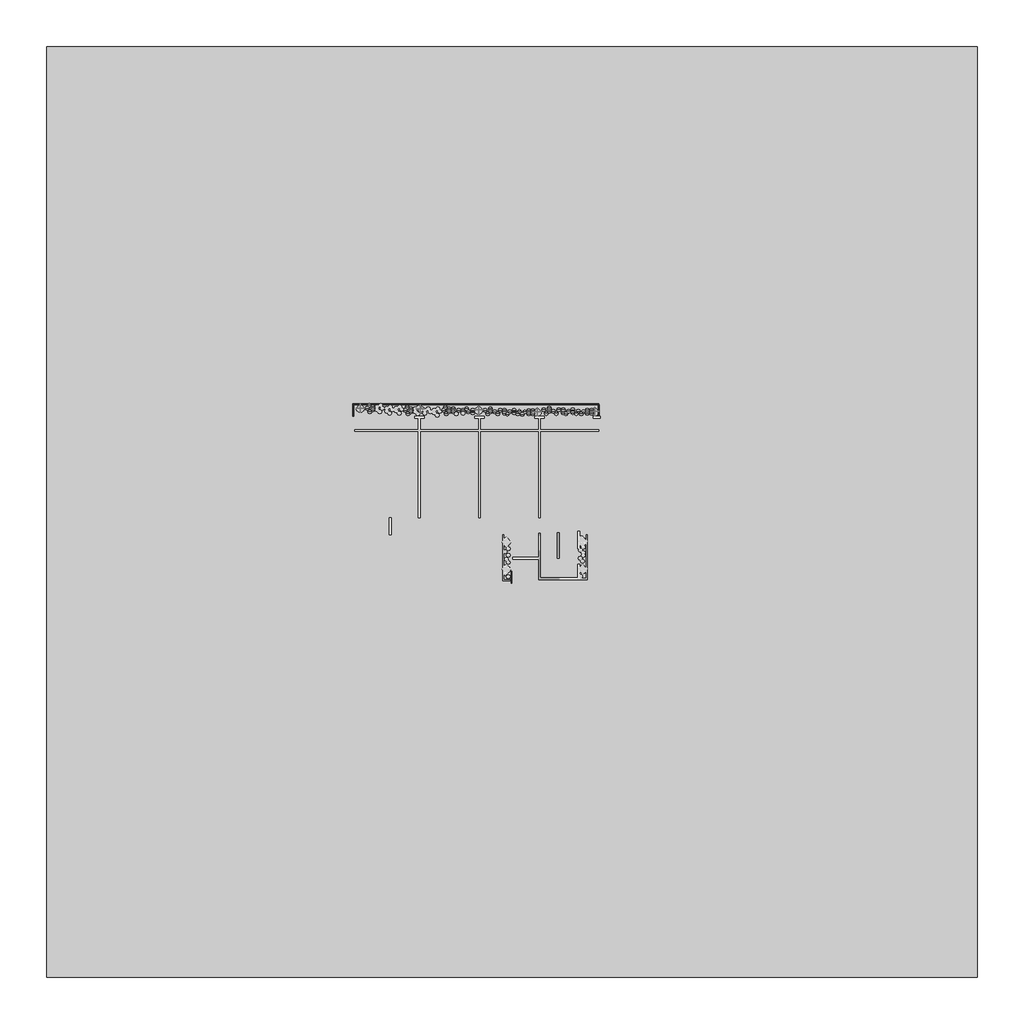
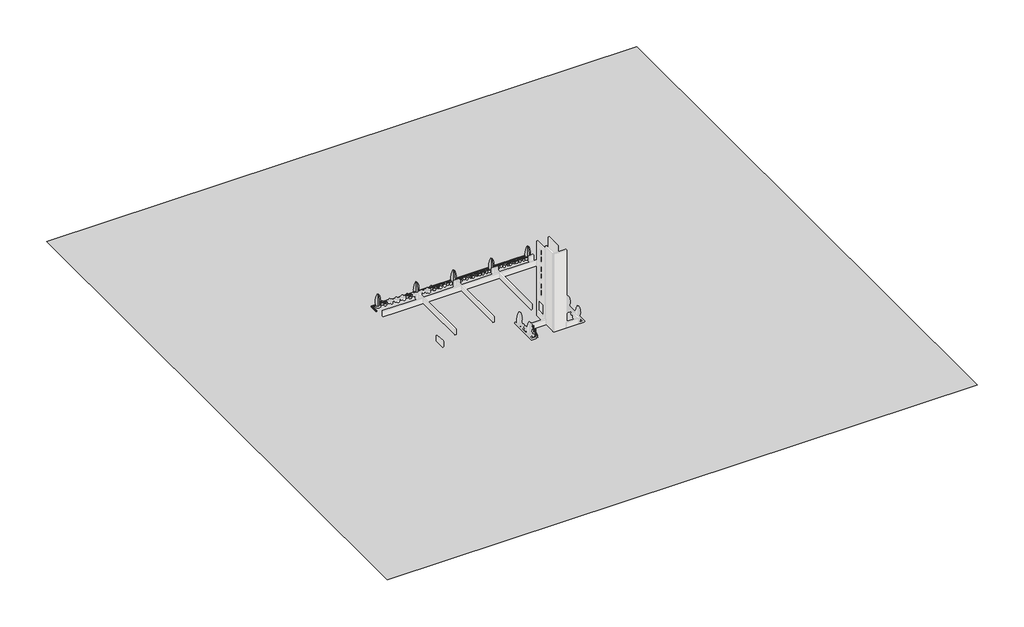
# One storey, part 2 of 2: 77 geographic elements, 70 proxies.
"""IFC4 building model written with IfcOpenShell, lengths in millimetres."""

from ifc_helpers import new_model, si_unit, origin, place, context, project, spatial, triangles, transform, mapped, element, save
from components import generic_models_b06dacd5, generic_models_38c1e6e6, generic_models_6d567278, generic_models_fe5f96ef, generic_models_e88440d3, geographic_element_770d22dd, geographic_element_d8609427

model = new_model("IFC4")

# Units and contexts
model_context = context("Model", 3, world=origin())
ifc_project = project(units=[si_unit("LENGTHUNIT", "METRE", prefix="MILLI")], contexts=[model_context])

# Site, building, storey
site = spatial("IfcSite", under=ifc_project)
building = spatial("IfcBuilding", under=site)
storey = spatial("IfcBuildingStorey", under=building, Name="設計GL", Elevation=0.0)

# Proxies
placement = place(None, origin())
element("IfcBuildingElementProxy", 1, Name="Building Element Proxy", at=placement, inside=storey, context=model_context, shape_type="Tessellation", body=[
    triangles([(-43599.9991699, 49999.9992188, 0.0), (56399.9992676, 49999.9992188, 0.0), (56399.9992676, -49999.9992188, 0.0), (-43599.9991699, -49999.9992188, 0.0)], [[1, 4, 2], [3, 2, 4]], closed=False),
])
generic_models_shape = generic_models_b06dacd5(model_context)
element("IfcBuildingElementProxy", 2, Name="玄関手摺子3 : 玄関手摺子", ObjectType="玄関手摺子3 : 玄関手摺子", at=placement, inside=storey, context=model_context, shape_type="MappedRepresentation", body=[
    mapped(generic_models_shape, transform((854.8405988, 1187.4496274, 0.0), x_axis=(1.0, 0.0, 0.0), y_axis=(0.0, 1.0, 0.0), z_axis=(0.0, 0.0, 1.0))),
])
generic_models_2_shape = generic_models_38c1e6e6(model_context)
element("IfcBuildingElementProxy", 3, Name="玄関手摺子5 : 玄関手摺子", ObjectType="玄関手摺子5 : 玄関手摺子", at=placement, inside=storey, context=model_context, shape_type="MappedRepresentation", body=[
    mapped(generic_models_2_shape, transform((854.8405988, 1687.4496274, 0.0), x_axis=(1.0, 0.0, 0.0), y_axis=(0.0, 1.0, 0.0), z_axis=(0.0, 0.0, 1.0))),
])
generic_models_3_shape = generic_models_6d567278(model_context)
element("IfcBuildingElementProxy", 4, Name="玄関手摺1 : 玄関手摺", ObjectType="玄関手摺1 : 玄関手摺", at=placement, inside=storey, context=model_context, shape_type="MappedRepresentation", body=[
    mapped(generic_models_3_shape, transform((17290.0, 0.0, 730.0), x_axis=(1.0, 0.0, 0.0), y_axis=(0.0, 1.0, 0.0), z_axis=(0.0, 0.0, 1.0))),
])
element("IfcBuildingElementProxy", 5, Name="玄関手摺2 : 玄関手摺", ObjectType="玄関手摺2 : 玄関手摺", at=placement, inside=storey, context=model_context, shape_type="MappedRepresentation", body=[
    mapped(generic_models_3_shape, transform((17290.0, 0.0, 410.0), x_axis=(1.0, 0.0, 0.0), y_axis=(0.0, 1.0, 0.0), z_axis=(0.0, 0.0, 1.0))),
])
generic_models_4_shape = generic_models_fe5f96ef(model_context)
element("IfcBuildingElementProxy", 6, Name="サツキ1 : サツキ", ObjectType="サツキ1 : サツキ", at=placement, inside=storey, context=model_context, shape_type="MappedRepresentation", body=[
    mapped(generic_models_4_shape, transform((47822.0281243, 4670.5037571, 0.0), x_axis=(1.0, 0.0, 0.0), y_axis=(0.0, 1.0, 0.0), z_axis=(0.0, 0.0, 1.0))),
])
element("IfcBuildingElementProxy", 7, Name="サツキ2 : サツキ", ObjectType="サツキ2 : サツキ", at=placement, inside=storey, context=model_context, shape_type="MappedRepresentation", body=[
    mapped(generic_models_4_shape, transform((47822.0281243, 4370.5037571, 0.0), x_axis=(1.0, 0.0, 0.0), y_axis=(0.0, 1.0, 0.0), z_axis=(0.0, 0.0, 1.0))),
])
element("IfcBuildingElementProxy", 8, Name="サツキ3 : サツキ", ObjectType="サツキ3 : サツキ", at=placement, inside=storey, context=model_context, shape_type="MappedRepresentation", body=[
    mapped(generic_models_4_shape, transform((47517.7640556, 4126.2396884, 0.0), x_axis=(1.0, 0.0, 0.0), y_axis=(0.0, 1.0, 0.0), z_axis=(0.0, 0.0, 1.0))),
])
element("IfcBuildingElementProxy", 9, Name="サツキ4 : サツキ", ObjectType="サツキ4 : サツキ", at=placement, inside=storey, context=model_context, shape_type="MappedRepresentation", body=[
    mapped(generic_models_4_shape, transform((47242.4726285, 4525.7951842, 0.0), x_axis=(1.0, 0.0, 0.0), y_axis=(0.0, 1.0, 0.0), z_axis=(0.0, 0.0, 1.0))),
])
element("IfcBuildingElementProxy", 10, Name="サツキ5 : サツキ", ObjectType="サツキ5 : サツキ", at=placement, inside=storey, context=model_context, shape_type="MappedRepresentation", body=[
    mapped(generic_models_4_shape, transform((47442.4726285, 4825.7951842, 0.0), x_axis=(1.0, 0.0, 0.0), y_axis=(0.0, 1.0, 0.0), z_axis=(0.0, 0.0, 1.0))),
])
element("IfcBuildingElementProxy", 11, Name="サツキ21 : サツキ", ObjectType="サツキ21 : サツキ", at=placement, inside=storey, context=model_context, shape_type="MappedRepresentation", body=[
    mapped(generic_models_4_shape, transform((51916.4092168, 4455.9263365, 0.0), x_axis=(1.0, 0.0, 0.0), y_axis=(0.0, 1.0, 0.0), z_axis=(0.0, 0.0, 1.0))),
])
element("IfcBuildingElementProxy", 12, Name="サツキ22 : サツキ", ObjectType="サツキ22 : サツキ", at=placement, inside=storey, context=model_context, shape_type="MappedRepresentation", body=[
    mapped(generic_models_4_shape, transform((51916.4092168, 4155.9263365, 0.0), x_axis=(1.0, 0.0, 0.0), y_axis=(0.0, 1.0, 0.0), z_axis=(0.0, 0.0, 1.0))),
])
element("IfcBuildingElementProxy", 13, Name="サツキ23 : サツキ", ObjectType="サツキ23 : サツキ", at=placement, inside=storey, context=model_context, shape_type="MappedRepresentation", body=[
    mapped(generic_models_4_shape, transform((51612.1451481, 3911.6622678, 0.0), x_axis=(1.0, 0.0, 0.0), y_axis=(0.0, 1.0, 0.0), z_axis=(0.0, 0.0, 1.0))),
])
element("IfcBuildingElementProxy", 14, Name="サツキ24 : サツキ", ObjectType="サツキ24 : サツキ", at=placement, inside=storey, context=model_context, shape_type="MappedRepresentation", body=[
    mapped(generic_models_4_shape, transform((51336.853721, 4311.2177636, 0.0), x_axis=(1.0, 0.0, 0.0), y_axis=(0.0, 1.0, 0.0), z_axis=(0.0, 0.0, 1.0))),
])
element("IfcBuildingElementProxy", 15, Name="サツキ25 : サツキ", ObjectType="サツキ25 : サツキ", at=placement, inside=storey, context=model_context, shape_type="MappedRepresentation", body=[
    mapped(generic_models_4_shape, transform((51536.853721, 4611.2177636, 0.0), x_axis=(1.0, 0.0, 0.0), y_axis=(0.0, 1.0, 0.0), z_axis=(0.0, 0.0, 1.0))),
])
element("IfcBuildingElementProxy", 16, Name="サツキ41 : サツキ", ObjectType="サツキ41 : サツキ", at=placement, inside=storey, context=model_context, shape_type="MappedRepresentation", body=[
    mapped(generic_models_4_shape, transform((56016.4092168, 4455.9263365, 0.0), x_axis=(1.0, 0.0, 0.0), y_axis=(0.0, 1.0, 0.0), z_axis=(0.0, 0.0, 1.0))),
])
element("IfcBuildingElementProxy", 17, Name="サツキ42 : サツキ", ObjectType="サツキ42 : サツキ", at=placement, inside=storey, context=model_context, shape_type="MappedRepresentation", body=[
    mapped(generic_models_4_shape, transform((56016.4092168, 4155.9263365, 0.0), x_axis=(1.0, 0.0, 0.0), y_axis=(0.0, 1.0, 0.0), z_axis=(0.0, 0.0, 1.0))),
])
element("IfcBuildingElementProxy", 18, Name="サツキ43 : サツキ", ObjectType="サツキ43 : サツキ", at=placement, inside=storey, context=model_context, shape_type="MappedRepresentation", body=[
    mapped(generic_models_4_shape, transform((55712.1451481, 3911.6622678, 0.0), x_axis=(1.0, 0.0, 0.0), y_axis=(0.0, 1.0, 0.0), z_axis=(0.0, 0.0, 1.0))),
])
element("IfcBuildingElementProxy", 19, Name="サツキ44 : サツキ", ObjectType="サツキ44 : サツキ", at=placement, inside=storey, context=model_context, shape_type="MappedRepresentation", body=[
    mapped(generic_models_4_shape, transform((55436.853721, 4311.2177636, 0.0), x_axis=(1.0, 0.0, 0.0), y_axis=(0.0, 1.0, 0.0), z_axis=(0.0, 0.0, 1.0))),
])
element("IfcBuildingElementProxy", 20, Name="サツキ45 : サツキ", ObjectType="サツキ45 : サツキ", at=placement, inside=storey, context=model_context, shape_type="MappedRepresentation", body=[
    mapped(generic_models_4_shape, transform((55636.853721, 4611.2177636, 0.0), x_axis=(1.0, 0.0, 0.0), y_axis=(0.0, 1.0, 0.0), z_axis=(0.0, 0.0, 1.0))),
])
generic_models_5_shape = generic_models_e88440d3(model_context)
element("IfcBuildingElementProxy", 21, Name="サツキ46 : サツキ", ObjectType="サツキ46 : サツキ", at=placement, inside=storey, context=model_context, shape_type="MappedRepresentation", body=[
    mapped(generic_models_5_shape, transform((-39627.6470318, 4455.9263365, 0.0), x_axis=(1.0, 0.0, 0.0), y_axis=(0.0, 1.0, 0.0), z_axis=(0.0, 0.0, 1.0))),
])
element("IfcBuildingElementProxy", 22, Name="サツキ47 : サツキ", ObjectType="サツキ47 : サツキ", at=placement, inside=storey, context=model_context, shape_type="MappedRepresentation", body=[
    mapped(generic_models_5_shape, transform((-39627.6470318, 4155.9263365, 0.0), x_axis=(1.0, 0.0, 0.0), y_axis=(0.0, 1.0, 0.0), z_axis=(0.0, 0.0, 1.0))),
])
element("IfcBuildingElementProxy", 23, Name="サツキ49 : サツキ", ObjectType="サツキ49 : サツキ", at=placement, inside=storey, context=model_context, shape_type="MappedRepresentation", body=[
    mapped(generic_models_5_shape, transform((-39048.091536, 4311.2177636, 0.0), x_axis=(1.0, 0.0, 0.0), y_axis=(0.0, 1.0, 0.0), z_axis=(0.0, 0.0, 1.0))),
])
element("IfcBuildingElementProxy", 24, Name="サツキ51 : サツキ", ObjectType="サツキ51 : サツキ", at=placement, inside=storey, context=model_context, shape_type="MappedRepresentation", body=[
    mapped(generic_models_5_shape, transform((-38583.1272642, 4296.0481083, 0.0), x_axis=(1.0, 0.0, 0.0), y_axis=(0.0, 1.0, 0.0), z_axis=(0.0, 0.0, 1.0))),
])
element("IfcBuildingElementProxy", 25, Name="サツキ54 : サツキ", ObjectType="サツキ54 : サツキ", at=placement, inside=storey, context=model_context, shape_type="MappedRepresentation", body=[
    mapped(generic_models_5_shape, transform((-38003.5717685, 4151.3395354, 0.0), x_axis=(1.0, 0.0, 0.0), y_axis=(0.0, 1.0, 0.0), z_axis=(0.0, 0.0, 1.0))),
])
element("IfcBuildingElementProxy", 26, Name="サツキ55 : サツキ", ObjectType="サツキ55 : サツキ", at=placement, inside=storey, context=model_context, shape_type="MappedRepresentation", body=[
    mapped(generic_models_5_shape, transform((-38203.5717685, 4451.3395354, 0.0), x_axis=(1.0, 0.0, 0.0), y_axis=(0.0, 1.0, 0.0), z_axis=(0.0, 0.0, 1.0))),
])
element("IfcBuildingElementProxy", 27, Name="サツキ56 : サツキ", ObjectType="サツキ56 : サツキ", at=placement, inside=storey, context=model_context, shape_type="MappedRepresentation", body=[
    mapped(generic_models_5_shape, transform((-37555.2810618, 4314.9666505, 0.0), x_axis=(1.0, 0.0, 0.0), y_axis=(0.0, 1.0, 0.0), z_axis=(0.0, 0.0, 1.0))),
])
element("IfcBuildingElementProxy", 28, Name="サツキ57 : サツキ", ObjectType="サツキ57 : サツキ", at=placement, inside=storey, context=model_context, shape_type="MappedRepresentation", body=[
    mapped(generic_models_5_shape, transform((-37555.2810618, 4014.9666505, 0.0), x_axis=(1.0, 0.0, 0.0), y_axis=(0.0, 1.0, 0.0), z_axis=(0.0, 0.0, 1.0))),
])
element("IfcBuildingElementProxy", 29, Name="サツキ61 : サツキ", ObjectType="サツキ61 : サツキ", at=placement, inside=storey, context=model_context, shape_type="MappedRepresentation", body=[
    mapped(generic_models_4_shape, transform((60472.0281243, 4455.9263365, 0.0), x_axis=(1.0, 0.0, 0.0), y_axis=(0.0, 1.0, 0.0), z_axis=(0.0, 0.0, 1.0))),
])
element("IfcBuildingElementProxy", 30, Name="サツキ62 : サツキ", ObjectType="サツキ62 : サツキ", at=placement, inside=storey, context=model_context, shape_type="MappedRepresentation", body=[
    mapped(generic_models_4_shape, transform((60472.0281243, 4155.9263365, 0.0), x_axis=(1.0, 0.0, 0.0), y_axis=(0.0, 1.0, 0.0), z_axis=(0.0, 0.0, 1.0))),
])
element("IfcBuildingElementProxy", 31, Name="サツキ63 : サツキ", ObjectType="サツキ63 : サツキ", at=placement, inside=storey, context=model_context, shape_type="MappedRepresentation", body=[
    mapped(generic_models_4_shape, transform((60167.7640556, 3911.6622678, 0.0), x_axis=(1.0, 0.0, 0.0), y_axis=(0.0, 1.0, 0.0), z_axis=(0.0, 0.0, 1.0))),
])
element("IfcBuildingElementProxy", 32, Name="サツキ64 : サツキ", ObjectType="サツキ64 : サツキ", at=placement, inside=storey, context=model_context, shape_type="MappedRepresentation", body=[
    mapped(generic_models_4_shape, transform((59892.4726285, 4311.2177636, 0.0), x_axis=(1.0, 0.0, 0.0), y_axis=(0.0, 1.0, 0.0), z_axis=(0.0, 0.0, 1.0))),
])
element("IfcBuildingElementProxy", 33, Name="サツキ67 : サツキ", ObjectType="サツキ67 : サツキ", at=placement, inside=storey, context=model_context, shape_type="MappedRepresentation", body=[
    mapped(generic_models_5_shape, transform((-35172.0281243, 4155.9263365, 0.0), x_axis=(1.0, 0.0, 0.0), y_axis=(0.0, 1.0, 0.0), z_axis=(0.0, 0.0, 1.0))),
])
element("IfcBuildingElementProxy", 34, Name="サツキ68 : サツキ", ObjectType="サツキ68 : サツキ", at=placement, inside=storey, context=model_context, shape_type="MappedRepresentation", body=[
    mapped(generic_models_5_shape, transform((-34867.7640556, 3911.6622678, 0.0), x_axis=(1.0, 0.0, 0.0), y_axis=(0.0, 1.0, 0.0), z_axis=(0.0, 0.0, 1.0))),
])
element("IfcBuildingElementProxy", 35, Name="サツキ69 : サツキ", ObjectType="サツキ69 : サツキ", at=placement, inside=storey, context=model_context, shape_type="MappedRepresentation", body=[
    mapped(generic_models_5_shape, transform((-34592.4726285, 4311.2177636, 0.0), x_axis=(1.0, 0.0, 0.0), y_axis=(0.0, 1.0, 0.0), z_axis=(0.0, 0.0, 1.0))),
])
element("IfcBuildingElementProxy", 36, Name="サツキ71 : サツキ", ObjectType="サツキ71 : サツキ", at=placement, inside=storey, context=model_context, shape_type="MappedRepresentation", body=[
    mapped(generic_models_5_shape, transform((-34127.5083567, 4296.0481083, 0.0), x_axis=(1.0, 0.0, 0.0), y_axis=(0.0, 1.0, 0.0), z_axis=(0.0, 0.0, 1.0))),
])
element("IfcBuildingElementProxy", 37, Name="サツキ72 : サツキ", ObjectType="サツキ72 : サツキ", at=placement, inside=storey, context=model_context, shape_type="MappedRepresentation", body=[
    mapped(generic_models_5_shape, transform((-34127.5083567, 3996.0481083, 0.0), x_axis=(1.0, 0.0, 0.0), y_axis=(0.0, 1.0, 0.0), z_axis=(0.0, 0.0, 1.0))),
])
element("IfcBuildingElementProxy", 38, Name="サツキ73 : サツキ", ObjectType="サツキ73 : サツキ", at=placement, inside=storey, context=model_context, shape_type="MappedRepresentation", body=[
    mapped(generic_models_5_shape, transform((-33823.244288, 3891.7840396, 0.0), x_axis=(1.0, 0.0, 0.0), y_axis=(0.0, 1.0, 0.0), z_axis=(0.0, 0.0, 1.0))),
])
element("IfcBuildingElementProxy", 39, Name="サツキ74 : サツキ", ObjectType="サツキ74 : サツキ", at=placement, inside=storey, context=model_context, shape_type="MappedRepresentation", body=[
    mapped(generic_models_5_shape, transform((-33547.9528609, 4151.3395354, 0.0), x_axis=(1.0, 0.0, 0.0), y_axis=(0.0, 1.0, 0.0), z_axis=(0.0, 0.0, 1.0))),
])
element("IfcBuildingElementProxy", 40, Name="サツキ76 : サツキ", ObjectType="サツキ76 : サツキ", at=placement, inside=storey, context=model_context, shape_type="MappedRepresentation", body=[
    mapped(generic_models_5_shape, transform((-33099.6621543, 4314.9666505, 0.0), x_axis=(1.0, 0.0, 0.0), y_axis=(0.0, 1.0, 0.0), z_axis=(0.0, 0.0, 1.0))),
])
element("IfcBuildingElementProxy", 41, Name="サツキ77 : サツキ", ObjectType="サツキ77 : サツキ", at=placement, inside=storey, context=model_context, shape_type="MappedRepresentation", body=[
    mapped(generic_models_5_shape, transform((-33099.6621543, 4014.9666505, 0.0), x_axis=(1.0, 0.0, 0.0), y_axis=(0.0, 1.0, 0.0), z_axis=(0.0, 0.0, 1.0))),
])
element("IfcBuildingElementProxy", 42, Name="サツキ79 : サツキ", ObjectType="サツキ79 : サツキ", at=placement, inside=storey, context=model_context, shape_type="MappedRepresentation", body=[
    mapped(generic_models_5_shape, transform((-32520.1066585, 4170.2580775, 0.0), x_axis=(1.0, 0.0, 0.0), y_axis=(0.0, 1.0, 0.0), z_axis=(0.0, 0.0, 1.0))),
])
element("IfcBuildingElementProxy", 43, Name="サツキ80 : サツキ", ObjectType="サツキ80 : サツキ", at=placement, inside=storey, context=model_context, shape_type="MappedRepresentation", body=[
    mapped(generic_models_5_shape, transform((-32720.1066585, 3910.2580775, 0.0), x_axis=(1.0, 0.0, 0.0), y_axis=(0.0, 1.0, 0.0), z_axis=(0.0, 0.0, 1.0))),
])
element("IfcBuildingElementProxy", 44, Name="サツキ81 : サツキ", ObjectType="サツキ81 : サツキ", at=placement, inside=storey, context=model_context, shape_type="MappedRepresentation", body=[
    mapped(generic_models_4_shape, transform((64566.4092168, 4241.3489159, 0.0), x_axis=(1.0, 0.0, 0.0), y_axis=(0.0, 1.0, 0.0), z_axis=(0.0, 0.0, 1.0))),
])
element("IfcBuildingElementProxy", 45, Name="サツキ82 : サツキ", ObjectType="サツキ82 : サツキ", at=placement, inside=storey, context=model_context, shape_type="MappedRepresentation", body=[
    mapped(generic_models_4_shape, transform((64566.4092168, 3941.3489159, 0.0), x_axis=(1.0, 0.0, 0.0), y_axis=(0.0, 1.0, 0.0), z_axis=(0.0, 0.0, 1.0))),
])
element("IfcBuildingElementProxy", 46, Name="サツキ84 : サツキ", ObjectType="サツキ84 : サツキ", at=placement, inside=storey, context=model_context, shape_type="MappedRepresentation", body=[
    mapped(generic_models_4_shape, transform((63906.853721, 3876.640343, 0.0), x_axis=(1.0, 0.0, 0.0), y_axis=(0.0, 1.0, 0.0), z_axis=(0.0, 0.0, 1.0))),
])
element("IfcBuildingElementProxy", 47, Name="サツキ85 : サツキ", ObjectType="サツキ85 : サツキ", at=placement, inside=storey, context=model_context, shape_type="MappedRepresentation", body=[
    mapped(generic_models_4_shape, transform((64166.853721, 4116.640343, 0.0), x_axis=(1.0, 0.0, 0.0), y_axis=(0.0, 1.0, 0.0), z_axis=(0.0, 0.0, 1.0))),
])
element("IfcBuildingElementProxy", 48, Name="サツキ86 : サツキ", ObjectType="サツキ86 : サツキ", at=placement, inside=storey, context=model_context, shape_type="MappedRepresentation", body=[
    mapped(generic_models_5_shape, transform((-31077.6470318, 4241.3489159, 0.0), x_axis=(1.0, 0.0, 0.0), y_axis=(0.0, 1.0, 0.0), z_axis=(0.0, 0.0, 1.0))),
])
element("IfcBuildingElementProxy", 49, Name="サツキ87 : サツキ", ObjectType="サツキ87 : サツキ", at=placement, inside=storey, context=model_context, shape_type="MappedRepresentation", body=[
    mapped(generic_models_5_shape, transform((-31077.6470318, 3941.3489159, 0.0), x_axis=(1.0, 0.0, 0.0), y_axis=(0.0, 1.0, 0.0), z_axis=(0.0, 0.0, 1.0))),
])
element("IfcBuildingElementProxy", 50, Name="サツキ33 : サツキ", ObjectType="サツキ33 : サツキ", at=placement, inside=storey, context=model_context, shape_type="MappedRepresentation", body=[
    mapped(generic_models_4_shape, transform((66772.0281243, 4495.9072352, 0.0), x_axis=(1.0, 0.0, 0.0), y_axis=(0.0, 1.0, 0.0), z_axis=(0.0, 0.0, 1.0))),
])
element("IfcBuildingElementProxy", 51, Name="サツキ103 : サツキ", ObjectType="サツキ103 : サツキ", at=placement, inside=storey, context=model_context, shape_type="MappedRepresentation", body=[
    mapped(generic_models_4_shape, transform((66772.0281243, 4195.9072352, 0.0), x_axis=(1.0, 0.0, 0.0), y_axis=(0.0, 1.0, 0.0), z_axis=(0.0, 0.0, 1.0))),
])
element("IfcBuildingElementProxy", 52, Name="サツキ104 : サツキ", ObjectType="サツキ104 : サツキ", at=placement, inside=storey, context=model_context, shape_type="MappedRepresentation", body=[
    mapped(generic_models_4_shape, transform((66467.7640556, 3951.6431665, 0.0), x_axis=(1.0, 0.0, 0.0), y_axis=(0.0, 1.0, 0.0), z_axis=(0.0, 0.0, 1.0))),
])
element("IfcBuildingElementProxy", 53, Name="サツキ105 : サツキ", ObjectType="サツキ105 : サツキ", at=placement, inside=storey, context=model_context, shape_type="MappedRepresentation", body=[
    mapped(generic_models_4_shape, transform((66192.4726285, 4351.1986623, 0.0), x_axis=(1.0, 0.0, 0.0), y_axis=(0.0, 1.0, 0.0), z_axis=(0.0, 0.0, 1.0))),
])
element("IfcBuildingElementProxy", 54, Name="サツキ106 : サツキ", ObjectType="サツキ106 : サツキ", at=placement, inside=storey, context=model_context, shape_type="MappedRepresentation", body=[
    mapped(generic_models_5_shape, transform((-28872.0281243, 4195.9072352, 0.0), x_axis=(1.0, 0.0, 0.0), y_axis=(0.0, 1.0, 0.0), z_axis=(0.0, 0.0, 1.0))),
])
element("IfcBuildingElementProxy", 55, Name="サツキ107 : サツキ", ObjectType="サツキ107 : サツキ", at=placement, inside=storey, context=model_context, shape_type="MappedRepresentation", body=[
    mapped(generic_models_5_shape, transform((-28567.7640556, 3951.6431665, 0.0), x_axis=(1.0, 0.0, 0.0), y_axis=(0.0, 1.0, 0.0), z_axis=(0.0, 0.0, 1.0))),
])
element("IfcBuildingElementProxy", 56, Name="サツキ108 : サツキ", ObjectType="サツキ108 : サツキ", at=placement, inside=storey, context=model_context, shape_type="MappedRepresentation", body=[
    mapped(generic_models_5_shape, transform((-28292.4726285, 4351.1986623, 0.0), x_axis=(1.0, 0.0, 0.0), y_axis=(0.0, 1.0, 0.0), z_axis=(0.0, 0.0, 1.0))),
])
element("IfcBuildingElementProxy", 57, Name="サツキ109 : サツキ", ObjectType="サツキ109 : サツキ", at=placement, inside=storey, context=model_context, shape_type="MappedRepresentation", body=[
    mapped(generic_models_5_shape, transform((-27827.5083567, 4336.029007, 0.0), x_axis=(1.0, 0.0, 0.0), y_axis=(0.0, 1.0, 0.0), z_axis=(0.0, 0.0, 1.0))),
])
element("IfcBuildingElementProxy", 58, Name="サツキ110 : サツキ", ObjectType="サツキ110 : サツキ", at=placement, inside=storey, context=model_context, shape_type="MappedRepresentation", body=[
    mapped(generic_models_5_shape, transform((-27827.5083567, 4036.029007, 0.0), x_axis=(1.0, 0.0, 0.0), y_axis=(0.0, 1.0, 0.0), z_axis=(0.0, 0.0, 1.0))),
])
element("IfcBuildingElementProxy", 59, Name="サツキ111 : サツキ", ObjectType="サツキ111 : サツキ", at=placement, inside=storey, context=model_context, shape_type="MappedRepresentation", body=[
    mapped(generic_models_5_shape, transform((-27523.244288, 3931.7649383, 0.0), x_axis=(1.0, 0.0, 0.0), y_axis=(0.0, 1.0, 0.0), z_axis=(0.0, 0.0, 1.0))),
])
element("IfcBuildingElementProxy", 60, Name="サツキ112 : サツキ", ObjectType="サツキ112 : サツキ", at=placement, inside=storey, context=model_context, shape_type="MappedRepresentation", body=[
    mapped(generic_models_5_shape, transform((-27247.9528609, 4191.3204341, 0.0), x_axis=(1.0, 0.0, 0.0), y_axis=(0.0, 1.0, 0.0), z_axis=(0.0, 0.0, 1.0))),
])
element("IfcBuildingElementProxy", 61, Name="サツキ113 : サツキ", ObjectType="サツキ113 : サツキ", at=placement, inside=storey, context=model_context, shape_type="MappedRepresentation", body=[
    mapped(generic_models_5_shape, transform((-26799.6621543, 4354.9475491, 0.0), x_axis=(1.0, 0.0, 0.0), y_axis=(0.0, 1.0, 0.0), z_axis=(0.0, 0.0, 1.0))),
])
element("IfcBuildingElementProxy", 62, Name="サツキ114 : サツキ", ObjectType="サツキ114 : サツキ", at=placement, inside=storey, context=model_context, shape_type="MappedRepresentation", body=[
    mapped(generic_models_5_shape, transform((-26799.6621543, 4054.9475491, 0.0), x_axis=(1.0, 0.0, 0.0), y_axis=(0.0, 1.0, 0.0), z_axis=(0.0, 0.0, 1.0))),
])
element("IfcBuildingElementProxy", 63, Name="サツキ115 : サツキ", ObjectType="サツキ115 : サツキ", at=placement, inside=storey, context=model_context, shape_type="MappedRepresentation", body=[
    mapped(generic_models_5_shape, transform((-26220.1066585, 4210.2389762, 0.0), x_axis=(1.0, 0.0, 0.0), y_axis=(0.0, 1.0, 0.0), z_axis=(0.0, 0.0, 1.0))),
])
element("IfcBuildingElementProxy", 64, Name="サツキ116 : サツキ", ObjectType="サツキ116 : サツキ", at=placement, inside=storey, context=model_context, shape_type="MappedRepresentation", body=[
    mapped(generic_models_5_shape, transform((-26420.1066585, 3950.2389762, 0.0), x_axis=(1.0, 0.0, 0.0), y_axis=(0.0, 1.0, 0.0), z_axis=(0.0, 0.0, 1.0))),
])
element("IfcBuildingElementProxy", 65, Name="サツキ117 : サツキ", ObjectType="サツキ117 : サツキ", at=placement, inside=storey, context=model_context, shape_type="MappedRepresentation", body=[
    mapped(generic_models_4_shape, transform((70866.4092168, 4281.3298146, 0.0), x_axis=(1.0, 0.0, 0.0), y_axis=(0.0, 1.0, 0.0), z_axis=(0.0, 0.0, 1.0))),
])
element("IfcBuildingElementProxy", 66, Name="サツキ118 : サツキ", ObjectType="サツキ118 : サツキ", at=placement, inside=storey, context=model_context, shape_type="MappedRepresentation", body=[
    mapped(generic_models_4_shape, transform((70866.4092168, 3981.3298146, 0.0), x_axis=(1.0, 0.0, 0.0), y_axis=(0.0, 1.0, 0.0), z_axis=(0.0, 0.0, 1.0))),
])
element("IfcBuildingElementProxy", 67, Name="サツキ119 : サツキ", ObjectType="サツキ119 : サツキ", at=placement, inside=storey, context=model_context, shape_type="MappedRepresentation", body=[
    mapped(generic_models_4_shape, transform((70206.853721, 3916.6212417, 0.0), x_axis=(1.0, 0.0, 0.0), y_axis=(0.0, 1.0, 0.0), z_axis=(0.0, 0.0, 1.0))),
])
element("IfcBuildingElementProxy", 68, Name="サツキ120 : サツキ", ObjectType="サツキ120 : サツキ", at=placement, inside=storey, context=model_context, shape_type="MappedRepresentation", body=[
    mapped(generic_models_4_shape, transform((70466.853721, 4156.6212417, 0.0), x_axis=(1.0, 0.0, 0.0), y_axis=(0.0, 1.0, 0.0), z_axis=(0.0, 0.0, 1.0))),
])
element("IfcBuildingElementProxy", 69, Name="サツキ121 : サツキ", ObjectType="サツキ121 : サツキ", at=placement, inside=storey, context=model_context, shape_type="MappedRepresentation", body=[
    mapped(generic_models_5_shape, transform((-24777.6470318, 4281.3298146, 0.0), x_axis=(1.0, 0.0, 0.0), y_axis=(0.0, 1.0, 0.0), z_axis=(0.0, 0.0, 1.0))),
])
element("IfcBuildingElementProxy", 70, Name="サツキ122 : サツキ", ObjectType="サツキ122 : サツキ", at=placement, inside=storey, context=model_context, shape_type="MappedRepresentation", body=[
    mapped(generic_models_5_shape, transform((-24777.6470318, 3981.3298146, 0.0), x_axis=(1.0, 0.0, 0.0), y_axis=(0.0, 1.0, 0.0), z_axis=(0.0, 0.0, 1.0))),
])

# Geographic elements
geographic_element_shape = geographic_element_770d22dd(model_context)
element("IfcGeographicElement", 71, ObjectType="木 - 針葉樹 : イブキ - 2.14 メートル", at=placement, inside=storey, context=model_context, shape_type="MappedRepresentation", body=[
    mapped(geographic_element_shape, transform((-9895.8160806, 11165.254513, 200.0), x_axis=(1.0, 0.0, 0.0), y_axis=(0.0, 1.0, 0.0), z_axis=(0.0, 0.0, 1.0))),
])
element("IfcGeographicElement", 72, ObjectType="木 - 針葉樹 : イブキ - 2.14 メートル", at=placement, inside=storey, context=model_context, shape_type="MappedRepresentation", body=[
    mapped(geographic_element_shape, transform((-3445.8160806, 11065.254513, 200.0), x_axis=(1.0, 0.0, 0.0), y_axis=(0.0, 1.0, 0.0), z_axis=(0.0, 0.0, 1.0))),
])
element("IfcGeographicElement", 73, ObjectType="木 - 針葉樹 : イブキ - 2.14 メートル", at=placement, inside=storey, context=model_context, shape_type="MappedRepresentation", body=[
    mapped(geographic_element_shape, transform((2804.1839194, 10965.254513, 200.0), x_axis=(1.0, 0.0, 0.0), y_axis=(0.0, 1.0, 0.0), z_axis=(0.0, 0.0, 1.0))),
])
element("IfcGeographicElement", 74, ObjectType="木 - 針葉樹 : イブキ - 2.14 メートル", at=placement, inside=storey, context=model_context, shape_type="MappedRepresentation", body=[
    mapped(geographic_element_shape, transform((9104.1839194, 10765.254513, 200.0), x_axis=(1.0, 0.0, 0.0), y_axis=(0.0, 1.0, 0.0), z_axis=(0.0, 0.0, 1.0))),
])
element("IfcGeographicElement", 75, ObjectType="木 - 針葉樹 : イブキ - 2.14 メートル", at=placement, inside=storey, context=model_context, shape_type="MappedRepresentation", body=[
    mapped(geographic_element_shape, transform((15284.1839194, 10805.2354117, 200.0), x_axis=(1.0, 0.0, 0.0), y_axis=(0.0, 1.0, 0.0), z_axis=(0.0, 0.0, 1.0))),
])
geographic_element_2_shape = geographic_element_d8609427(model_context)
element("IfcGeographicElement", 76, ObjectType="化粧ＣＢ5Ｌ : 化粧ＣＢ5Ｌ", at=placement, inside=storey, context=model_context, shape_type="MappedRepresentation", body=[
    mapped(geographic_element_2_shape, transform((-10695.6194095, 10309.9866207, 0.0), x_axis=(0.0, 1.0, 0.0), y_axis=(-1.0, 0.0, 0.0), z_axis=(0.0, 0.0, 1.0))),
])
element("IfcGeographicElement", 77, ObjectType="化粧ＣＢ5Ｌ : 化粧ＣＢ5Ｌ", at=placement, inside=storey, context=model_context, shape_type="MappedRepresentation", body=[
    mapped(geographic_element_2_shape, transform((-10695.6194095, 10709.9866207, 0.0), x_axis=(0.0, 1.0, 0.0), y_axis=(-1.0, 0.0, 0.0), z_axis=(0.0, 0.0, 1.0))),
])
element("IfcGeographicElement", 78, ObjectType="化粧ＣＢ5Ｌ : 化粧ＣＢ5Ｌ", at=placement, inside=storey, context=model_context, shape_type="MappedRepresentation", body=[
    mapped(geographic_element_2_shape, transform((-10695.6194095, 11109.9866207, 0.0), x_axis=(0.0, 1.0, 0.0), y_axis=(-1.0, 0.0, 0.0), z_axis=(0.0, 0.0, 1.0))),
])
element("IfcGeographicElement", 79, ObjectType="化粧ＣＢ5Ｌ : 化粧ＣＢ5Ｌ", at=placement, inside=storey, context=model_context, shape_type="MappedRepresentation", body=[
    mapped(geographic_element_2_shape, transform((-10295.6194095, 11509.9866207, 0.0), x_axis=(-1.0, 0.0, 0.0), y_axis=(0.0, -1.0, 0.0), z_axis=(0.0, 0.0, 1.0))),
])
element("IfcGeographicElement", 80, ObjectType="化粧ＣＢ5Ｌ : 化粧ＣＢ5Ｌ", at=placement, inside=storey, context=model_context, shape_type="MappedRepresentation", body=[
    mapped(geographic_element_2_shape, transform((-9895.6194095, 11509.9866207, 0.0), x_axis=(-1.0, 0.0, 0.0), y_axis=(0.0, -1.0, 0.0), z_axis=(0.0, 0.0, 1.0))),
])
element("IfcGeographicElement", 81, ObjectType="化粧ＣＢ5Ｌ : 化粧ＣＢ5Ｌ", at=placement, inside=storey, context=model_context, shape_type="MappedRepresentation", body=[
    mapped(geographic_element_2_shape, transform((-9495.6194095, 11509.9866207, 0.0), x_axis=(-1.0, 0.0, 0.0), y_axis=(0.0, -1.0, 0.0), z_axis=(0.0, 0.0, 1.0))),
])
element("IfcGeographicElement", 82, ObjectType="化粧ＣＢ5Ｌ : 化粧ＣＢ5Ｌ", at=placement, inside=storey, context=model_context, shape_type="MappedRepresentation", body=[
    mapped(geographic_element_2_shape, transform((-9095.6194095, 11509.9866207, 0.0), x_axis=(-1.0, 0.0, 0.0), y_axis=(0.0, -1.0, 0.0), z_axis=(0.0, 0.0, 1.0))),
])
element("IfcGeographicElement", 83, ObjectType="化粧ＣＢ5Ｌ : 化粧ＣＢ5Ｌ", at=placement, inside=storey, context=model_context, shape_type="MappedRepresentation", body=[
    mapped(geographic_element_2_shape, transform((-8695.6194095, 11509.9866207, 0.0), x_axis=(-1.0, 0.0, 0.0), y_axis=(0.0, -1.0, 0.0), z_axis=(0.0, 0.0, 1.0))),
])
element("IfcGeographicElement", 84, ObjectType="化粧ＣＢ5Ｌ : 化粧ＣＢ5Ｌ", at=placement, inside=storey, context=model_context, shape_type="MappedRepresentation", body=[
    mapped(geographic_element_2_shape, transform((-8295.6194095, 11509.9866207, 0.0), x_axis=(-1.0, 0.0, 0.0), y_axis=(0.0, -1.0, 0.0), z_axis=(0.0, 0.0, 1.0))),
])
element("IfcGeographicElement", 85, ObjectType="化粧ＣＢ5Ｌ : 化粧ＣＢ5Ｌ", at=placement, inside=storey, context=model_context, shape_type="MappedRepresentation", body=[
    mapped(geographic_element_2_shape, transform((-7895.6194095, 11509.9866207, 0.0), x_axis=(-1.0, 0.0, 0.0), y_axis=(0.0, -1.0, 0.0), z_axis=(0.0, 0.0, 1.0))),
])
element("IfcGeographicElement", 86, ObjectType="化粧ＣＢ5Ｌ : 化粧ＣＢ5Ｌ", at=placement, inside=storey, context=model_context, shape_type="MappedRepresentation", body=[
    mapped(geographic_element_2_shape, transform((-7495.6194095, 11509.9866207, 0.0), x_axis=(-1.0, 0.0, 0.0), y_axis=(0.0, -1.0, 0.0), z_axis=(0.0, 0.0, 1.0))),
])
element("IfcGeographicElement", 87, ObjectType="化粧ＣＢ5Ｌ : 化粧ＣＢ5Ｌ", at=placement, inside=storey, context=model_context, shape_type="MappedRepresentation", body=[
    mapped(geographic_element_2_shape, transform((-7095.6194095, 11509.9866207, 0.0), x_axis=(-1.0, 0.0, 0.0), y_axis=(0.0, -1.0, 0.0), z_axis=(0.0, 0.0, 1.0))),
])
element("IfcGeographicElement", 88, ObjectType="化粧ＣＢ5Ｌ : 化粧ＣＢ5Ｌ", at=placement, inside=storey, context=model_context, shape_type="MappedRepresentation", body=[
    mapped(geographic_element_2_shape, transform((-6695.6194095, 11509.9866207, 0.0), x_axis=(-1.0, 0.0, 0.0), y_axis=(0.0, -1.0, 0.0), z_axis=(0.0, 0.0, 1.0))),
])
element("IfcGeographicElement", 89, ObjectType="化粧ＣＢ5Ｌ : 化粧ＣＢ5Ｌ", at=placement, inside=storey, context=model_context, shape_type="MappedRepresentation", body=[
    mapped(geographic_element_2_shape, transform((-6295.6194095, 11509.9866207, 0.0), x_axis=(-1.0, 0.0, 0.0), y_axis=(0.0, -1.0, 0.0), z_axis=(0.0, 0.0, 1.0))),
])
element("IfcGeographicElement", 90, ObjectType="化粧ＣＢ5Ｌ : 化粧ＣＢ5Ｌ", at=placement, inside=storey, context=model_context, shape_type="MappedRepresentation", body=[
    mapped(geographic_element_2_shape, transform((-5895.6194095, 11509.9866207, 0.0), x_axis=(-1.0, 0.0, 0.0), y_axis=(0.0, -1.0, 0.0), z_axis=(0.0, 0.0, 1.0))),
])
element("IfcGeographicElement", 91, ObjectType="化粧ＣＢ5Ｌ : 化粧ＣＢ5Ｌ", at=placement, inside=storey, context=model_context, shape_type="MappedRepresentation", body=[
    mapped(geographic_element_2_shape, transform((-5495.6194095, 11509.9866207, 0.0), x_axis=(-1.0, 0.0, 0.0), y_axis=(0.0, -1.0, 0.0), z_axis=(0.0, 0.0, 1.0))),
])
element("IfcGeographicElement", 92, ObjectType="化粧ＣＢ5Ｌ : 化粧ＣＢ5Ｌ", at=placement, inside=storey, context=model_context, shape_type="MappedRepresentation", body=[
    mapped(geographic_element_2_shape, transform((-5095.6194095, 11509.9866207, 0.0), x_axis=(-1.0, 0.0, 0.0), y_axis=(0.0, -1.0, 0.0), z_axis=(0.0, 0.0, 1.0))),
])
element("IfcGeographicElement", 93, ObjectType="化粧ＣＢ5Ｌ : 化粧ＣＢ5Ｌ", at=placement, inside=storey, context=model_context, shape_type="MappedRepresentation", body=[
    mapped(geographic_element_2_shape, transform((-4695.6194095, 11509.9866207, 0.0), x_axis=(-1.0, 0.0, 0.0), y_axis=(0.0, -1.0, 0.0), z_axis=(0.0, 0.0, 1.0))),
])
element("IfcGeographicElement", 94, ObjectType="化粧ＣＢ5Ｌ : 化粧ＣＢ5Ｌ", at=placement, inside=storey, context=model_context, shape_type="MappedRepresentation", body=[
    mapped(geographic_element_2_shape, transform((-4295.6194095, 11509.9866207, 0.0), x_axis=(-1.0, 0.0, 0.0), y_axis=(0.0, -1.0, 0.0), z_axis=(0.0, 0.0, 1.0))),
])
element("IfcGeographicElement", 95, ObjectType="化粧ＣＢ5Ｌ : 化粧ＣＢ5Ｌ", at=placement, inside=storey, context=model_context, shape_type="MappedRepresentation", body=[
    mapped(geographic_element_2_shape, transform((-3895.6194095, 11509.9866207, 0.0), x_axis=(-1.0, 0.0, 0.0), y_axis=(0.0, -1.0, 0.0), z_axis=(0.0, 0.0, 1.0))),
])
element("IfcGeographicElement", 96, ObjectType="化粧ＣＢ5Ｌ : 化粧ＣＢ5Ｌ", at=placement, inside=storey, context=model_context, shape_type="MappedRepresentation", body=[
    mapped(geographic_element_2_shape, transform((-3495.6194095, 11509.9866207, 0.0), x_axis=(-1.0, 0.0, 0.0), y_axis=(0.0, -1.0, 0.0), z_axis=(0.0, 0.0, 1.0))),
])
element("IfcGeographicElement", 97, ObjectType="化粧ＣＢ5Ｌ : 化粧ＣＢ5Ｌ", at=placement, inside=storey, context=model_context, shape_type="MappedRepresentation", body=[
    mapped(geographic_element_2_shape, transform((-3095.6194095, 11509.9866207, 0.0), x_axis=(-1.0, 0.0, 0.0), y_axis=(0.0, -1.0, 0.0), z_axis=(0.0, 0.0, 1.0))),
])
element("IfcGeographicElement", 98, ObjectType="化粧ＣＢ5Ｌ : 化粧ＣＢ5Ｌ", at=placement, inside=storey, context=model_context, shape_type="MappedRepresentation", body=[
    mapped(geographic_element_2_shape, transform((-2695.6194095, 11509.9866207, 0.0), x_axis=(-1.0, 0.0, 0.0), y_axis=(0.0, -1.0, 0.0), z_axis=(0.0, 0.0, 1.0))),
])
element("IfcGeographicElement", 99, ObjectType="化粧ＣＢ5Ｌ : 化粧ＣＢ5Ｌ", at=placement, inside=storey, context=model_context, shape_type="MappedRepresentation", body=[
    mapped(geographic_element_2_shape, transform((-2295.6194095, 11509.9866207, 0.0), x_axis=(-1.0, 0.0, 0.0), y_axis=(0.0, -1.0, 0.0), z_axis=(0.0, 0.0, 1.0))),
])
element("IfcGeographicElement", 100, ObjectType="化粧ＣＢ5Ｌ : 化粧ＣＢ5Ｌ", at=placement, inside=storey, context=model_context, shape_type="MappedRepresentation", body=[
    mapped(geographic_element_2_shape, transform((-1895.6194095, 11509.9866207, 0.0), x_axis=(-1.0, 0.0, 0.0), y_axis=(0.0, -1.0, 0.0), z_axis=(0.0, 0.0, 1.0))),
])
element("IfcGeographicElement", 101, ObjectType="化粧ＣＢ5Ｌ : 化粧ＣＢ5Ｌ", at=placement, inside=storey, context=model_context, shape_type="MappedRepresentation", body=[
    mapped(geographic_element_2_shape, transform((-1495.6194095, 11509.9866207, 0.0), x_axis=(-1.0, 0.0, 0.0), y_axis=(0.0, -1.0, 0.0), z_axis=(0.0, 0.0, 1.0))),
])
element("IfcGeographicElement", 102, ObjectType="化粧ＣＢ5Ｌ : 化粧ＣＢ5Ｌ", at=placement, inside=storey, context=model_context, shape_type="MappedRepresentation", body=[
    mapped(geographic_element_2_shape, transform((-1095.6194095, 11509.9866207, 0.0), x_axis=(-1.0, 0.0, 0.0), y_axis=(0.0, -1.0, 0.0), z_axis=(0.0, 0.0, 1.0))),
])
element("IfcGeographicElement", 103, ObjectType="化粧ＣＢ5Ｌ : 化粧ＣＢ5Ｌ", at=placement, inside=storey, context=model_context, shape_type="MappedRepresentation", body=[
    mapped(geographic_element_2_shape, transform((-695.6194095, 11509.9866207, 0.0), x_axis=(-1.0, 0.0, 0.0), y_axis=(0.0, -1.0, 0.0), z_axis=(0.0, 0.0, 1.0))),
])
element("IfcGeographicElement", 104, ObjectType="化粧ＣＢ5Ｌ : 化粧ＣＢ5Ｌ", at=placement, inside=storey, context=model_context, shape_type="MappedRepresentation", body=[
    mapped(geographic_element_2_shape, transform((-295.6194095, 11509.9866207, 0.0), x_axis=(-1.0, 0.0, 0.0), y_axis=(0.0, -1.0, 0.0), z_axis=(0.0, 0.0, 1.0))),
])
element("IfcGeographicElement", 105, ObjectType="化粧ＣＢ5Ｌ : 化粧ＣＢ5Ｌ", at=placement, inside=storey, context=model_context, shape_type="MappedRepresentation", body=[
    mapped(geographic_element_2_shape, transform((104.3805905, 11509.9866207, 0.0), x_axis=(-1.0, 0.0, 0.0), y_axis=(0.0, -1.0, 0.0), z_axis=(0.0, 0.0, 1.0))),
])
element("IfcGeographicElement", 106, ObjectType="化粧ＣＢ5Ｌ : 化粧ＣＢ5Ｌ", at=placement, inside=storey, context=model_context, shape_type="MappedRepresentation", body=[
    mapped(geographic_element_2_shape, transform((504.3805905, 11509.9866207, 0.0), x_axis=(-1.0, 0.0, 0.0), y_axis=(0.0, -1.0, 0.0), z_axis=(0.0, 0.0, 1.0))),
])
element("IfcGeographicElement", 107, ObjectType="化粧ＣＢ5Ｌ : 化粧ＣＢ5Ｌ", at=placement, inside=storey, context=model_context, shape_type="MappedRepresentation", body=[
    mapped(geographic_element_2_shape, transform((904.3805905, 11509.9866207, 0.0), x_axis=(-1.0, 0.0, 0.0), y_axis=(0.0, -1.0, 0.0), z_axis=(0.0, 0.0, 1.0))),
])
element("IfcGeographicElement", 108, ObjectType="化粧ＣＢ5Ｌ : 化粧ＣＢ5Ｌ", at=placement, inside=storey, context=model_context, shape_type="MappedRepresentation", body=[
    mapped(geographic_element_2_shape, transform((1304.3805905, 11509.9866207, 0.0), x_axis=(-1.0, 0.0, 0.0), y_axis=(0.0, -1.0, 0.0), z_axis=(0.0, 0.0, 1.0))),
])
element("IfcGeographicElement", 109, ObjectType="化粧ＣＢ5Ｌ : 化粧ＣＢ5Ｌ", at=placement, inside=storey, context=model_context, shape_type="MappedRepresentation", body=[
    mapped(geographic_element_2_shape, transform((1704.3805905, 11509.9866207, 0.0), x_axis=(-1.0, 0.0, 0.0), y_axis=(0.0, -1.0, 0.0), z_axis=(0.0, 0.0, 1.0))),
])
element("IfcGeographicElement", 110, ObjectType="化粧ＣＢ5Ｌ : 化粧ＣＢ5Ｌ", at=placement, inside=storey, context=model_context, shape_type="MappedRepresentation", body=[
    mapped(geographic_element_2_shape, transform((2104.3805905, 11509.9866207, 0.0), x_axis=(-1.0, 0.0, 0.0), y_axis=(0.0, -1.0, 0.0), z_axis=(0.0, 0.0, 1.0))),
])
element("IfcGeographicElement", 111, ObjectType="化粧ＣＢ5Ｌ : 化粧ＣＢ5Ｌ", at=placement, inside=storey, context=model_context, shape_type="MappedRepresentation", body=[
    mapped(geographic_element_2_shape, transform((2504.3805905, 11509.9866207, 0.0), x_axis=(-1.0, 0.0, 0.0), y_axis=(0.0, -1.0, 0.0), z_axis=(0.0, 0.0, 1.0))),
])
element("IfcGeographicElement", 112, ObjectType="化粧ＣＢ5Ｌ : 化粧ＣＢ5Ｌ", at=placement, inside=storey, context=model_context, shape_type="MappedRepresentation", body=[
    mapped(geographic_element_2_shape, transform((2904.3805905, 11509.9866207, 0.0), x_axis=(-1.0, 0.0, 0.0), y_axis=(0.0, -1.0, 0.0), z_axis=(0.0, 0.0, 1.0))),
])
element("IfcGeographicElement", 113, ObjectType="化粧ＣＢ5Ｌ : 化粧ＣＢ5Ｌ", at=placement, inside=storey, context=model_context, shape_type="MappedRepresentation", body=[
    mapped(geographic_element_2_shape, transform((3304.3805905, 11509.9866207, 0.0), x_axis=(-1.0, 0.0, 0.0), y_axis=(0.0, -1.0, 0.0), z_axis=(0.0, 0.0, 1.0))),
])
element("IfcGeographicElement", 114, ObjectType="化粧ＣＢ5Ｌ : 化粧ＣＢ5Ｌ", at=placement, inside=storey, context=model_context, shape_type="MappedRepresentation", body=[
    mapped(geographic_element_2_shape, transform((3704.3805905, 11509.9866207, 0.0), x_axis=(-1.0, 0.0, 0.0), y_axis=(0.0, -1.0, 0.0), z_axis=(0.0, 0.0, 1.0))),
])
element("IfcGeographicElement", 115, ObjectType="化粧ＣＢ5Ｌ : 化粧ＣＢ5Ｌ", at=placement, inside=storey, context=model_context, shape_type="MappedRepresentation", body=[
    mapped(geographic_element_2_shape, transform((4104.3805905, 11509.9866207, 0.0), x_axis=(-1.0, 0.0, 0.0), y_axis=(0.0, -1.0, 0.0), z_axis=(0.0, 0.0, 1.0))),
])
element("IfcGeographicElement", 116, ObjectType="化粧ＣＢ5Ｌ : 化粧ＣＢ5Ｌ", at=placement, inside=storey, context=model_context, shape_type="MappedRepresentation", body=[
    mapped(geographic_element_2_shape, transform((4504.3805905, 11509.9866207, 0.0), x_axis=(-1.0, 0.0, 0.0), y_axis=(0.0, -1.0, 0.0), z_axis=(0.0, 0.0, 1.0))),
])
element("IfcGeographicElement", 117, ObjectType="化粧ＣＢ5Ｌ : 化粧ＣＢ5Ｌ", at=placement, inside=storey, context=model_context, shape_type="MappedRepresentation", body=[
    mapped(geographic_element_2_shape, transform((4904.3805905, 11509.9866207, 0.0), x_axis=(-1.0, 0.0, 0.0), y_axis=(0.0, -1.0, 0.0), z_axis=(0.0, 0.0, 1.0))),
])
element("IfcGeographicElement", 118, ObjectType="化粧ＣＢ5Ｌ : 化粧ＣＢ5Ｌ", at=placement, inside=storey, context=model_context, shape_type="MappedRepresentation", body=[
    mapped(geographic_element_2_shape, transform((5304.3805905, 11509.9866207, 0.0), x_axis=(-1.0, 0.0, 0.0), y_axis=(0.0, -1.0, 0.0), z_axis=(0.0, 0.0, 1.0))),
])
element("IfcGeographicElement", 119, ObjectType="化粧ＣＢ5Ｌ : 化粧ＣＢ5Ｌ", at=placement, inside=storey, context=model_context, shape_type="MappedRepresentation", body=[
    mapped(geographic_element_2_shape, transform((5704.3805905, 11509.9866207, 0.0), x_axis=(-1.0, 0.0, 0.0), y_axis=(0.0, -1.0, 0.0), z_axis=(0.0, 0.0, 1.0))),
])
element("IfcGeographicElement", 120, ObjectType="化粧ＣＢ5Ｌ : 化粧ＣＢ5Ｌ", at=placement, inside=storey, context=model_context, shape_type="MappedRepresentation", body=[
    mapped(geographic_element_2_shape, transform((6104.3805905, 11509.9866207, 0.0), x_axis=(-1.0, 0.0, 0.0), y_axis=(0.0, -1.0, 0.0), z_axis=(0.0, 0.0, 1.0))),
])
element("IfcGeographicElement", 121, ObjectType="化粧ＣＢ5Ｌ : 化粧ＣＢ5Ｌ", at=placement, inside=storey, context=model_context, shape_type="MappedRepresentation", body=[
    mapped(geographic_element_2_shape, transform((6504.3805905, 11509.9866207, 0.0), x_axis=(-1.0, 0.0, 0.0), y_axis=(0.0, -1.0, 0.0), z_axis=(0.0, 0.0, 1.0))),
])
element("IfcGeographicElement", 122, ObjectType="化粧ＣＢ5Ｌ : 化粧ＣＢ5Ｌ", at=placement, inside=storey, context=model_context, shape_type="MappedRepresentation", body=[
    mapped(geographic_element_2_shape, transform((6904.3805905, 11509.9866207, 0.0), x_axis=(-1.0, 0.0, 0.0), y_axis=(0.0, -1.0, 0.0), z_axis=(0.0, 0.0, 1.0))),
])
element("IfcGeographicElement", 123, ObjectType="化粧ＣＢ5Ｌ : 化粧ＣＢ5Ｌ", at=placement, inside=storey, context=model_context, shape_type="MappedRepresentation", body=[
    mapped(geographic_element_2_shape, transform((7304.3805905, 11509.9866207, 0.0), x_axis=(-1.0, 0.0, 0.0), y_axis=(0.0, -1.0, 0.0), z_axis=(0.0, 0.0, 1.0))),
])
element("IfcGeographicElement", 124, ObjectType="化粧ＣＢ5Ｌ : 化粧ＣＢ5Ｌ", at=placement, inside=storey, context=model_context, shape_type="MappedRepresentation", body=[
    mapped(geographic_element_2_shape, transform((7704.3805905, 11509.9866207, 0.0), x_axis=(-1.0, 0.0, 0.0), y_axis=(0.0, -1.0, 0.0), z_axis=(0.0, 0.0, 1.0))),
])
element("IfcGeographicElement", 125, ObjectType="化粧ＣＢ5Ｌ : 化粧ＣＢ5Ｌ", at=placement, inside=storey, context=model_context, shape_type="MappedRepresentation", body=[
    mapped(geographic_element_2_shape, transform((8104.3805905, 11509.9866207, 0.0), x_axis=(-1.0, 0.0, 0.0), y_axis=(0.0, -1.0, 0.0), z_axis=(0.0, 0.0, 1.0))),
])
element("IfcGeographicElement", 126, ObjectType="化粧ＣＢ5Ｌ : 化粧ＣＢ5Ｌ", at=placement, inside=storey, context=model_context, shape_type="MappedRepresentation", body=[
    mapped(geographic_element_2_shape, transform((8504.3805905, 11509.9866207, 0.0), x_axis=(-1.0, 0.0, 0.0), y_axis=(0.0, -1.0, 0.0), z_axis=(0.0, 0.0, 1.0))),
])
element("IfcGeographicElement", 127, ObjectType="化粧ＣＢ5Ｌ : 化粧ＣＢ5Ｌ", at=placement, inside=storey, context=model_context, shape_type="MappedRepresentation", body=[
    mapped(geographic_element_2_shape, transform((8904.3805905, 11509.9866207, 0.0), x_axis=(-1.0, 0.0, 0.0), y_axis=(0.0, -1.0, 0.0), z_axis=(0.0, 0.0, 1.0))),
])
element("IfcGeographicElement", 128, ObjectType="化粧ＣＢ5Ｌ : 化粧ＣＢ5Ｌ", at=placement, inside=storey, context=model_context, shape_type="MappedRepresentation", body=[
    mapped(geographic_element_2_shape, transform((9304.3805905, 11509.9866207, 0.0), x_axis=(-1.0, 0.0, 0.0), y_axis=(0.0, -1.0, 0.0), z_axis=(0.0, 0.0, 1.0))),
])
element("IfcGeographicElement", 129, ObjectType="化粧ＣＢ5Ｌ : 化粧ＣＢ5Ｌ", at=placement, inside=storey, context=model_context, shape_type="MappedRepresentation", body=[
    mapped(geographic_element_2_shape, transform((15664.3805905, 10309.9866207, 0.0), x_axis=(0.0, 1.0, 0.0), y_axis=(-1.0, 0.0, 0.0), z_axis=(0.0, 0.0, 1.0))),
])
element("IfcGeographicElement", 130, ObjectType="化粧ＣＢ5Ｌ : 化粧ＣＢ5Ｌ", at=placement, inside=storey, context=model_context, shape_type="MappedRepresentation", body=[
    mapped(geographic_element_2_shape, transform((15664.3805905, 10709.9866207, 0.0), x_axis=(0.0, 1.0, 0.0), y_axis=(-1.0, 0.0, 0.0), z_axis=(0.0, 0.0, 1.0))),
])
element("IfcGeographicElement", 131, ObjectType="化粧ＣＢ5Ｌ : 化粧ＣＢ5Ｌ", at=placement, inside=storey, context=model_context, shape_type="MappedRepresentation", body=[
    mapped(geographic_element_2_shape, transform((15664.3805905, 11109.9866207, 0.0), x_axis=(0.0, 1.0, 0.0), y_axis=(-1.0, 0.0, 0.0), z_axis=(0.0, 0.0, 1.0))),
])
element("IfcGeographicElement", 132, ObjectType="化粧ＣＢ5Ｌ : 化粧ＣＢ5Ｌ", at=placement, inside=storey, context=model_context, shape_type="MappedRepresentation", body=[
    mapped(geographic_element_2_shape, transform((9704.3805905, 11509.9866207, 0.0), x_axis=(-1.0, 0.0, 0.0), y_axis=(0.0, -1.0, 0.0), z_axis=(0.0, 0.0, 1.0))),
])
element("IfcGeographicElement", 133, ObjectType="化粧ＣＢ5Ｌ : 化粧ＣＢ5Ｌ", at=placement, inside=storey, context=model_context, shape_type="MappedRepresentation", body=[
    mapped(geographic_element_2_shape, transform((10104.3805905, 11509.9866207, 0.0), x_axis=(-1.0, 0.0, 0.0), y_axis=(0.0, -1.0, 0.0), z_axis=(0.0, 0.0, 1.0))),
])
element("IfcGeographicElement", 134, ObjectType="化粧ＣＢ5Ｌ : 化粧ＣＢ5Ｌ", at=placement, inside=storey, context=model_context, shape_type="MappedRepresentation", body=[
    mapped(geographic_element_2_shape, transform((10504.3805905, 11509.9866207, 0.0), x_axis=(-1.0, 0.0, 0.0), y_axis=(0.0, -1.0, 0.0), z_axis=(0.0, 0.0, 1.0))),
])
element("IfcGeographicElement", 135, ObjectType="化粧ＣＢ5Ｌ : 化粧ＣＢ5Ｌ", at=placement, inside=storey, context=model_context, shape_type="MappedRepresentation", body=[
    mapped(geographic_element_2_shape, transform((10904.3805905, 11509.9866207, 0.0), x_axis=(-1.0, 0.0, 0.0), y_axis=(0.0, -1.0, 0.0), z_axis=(0.0, 0.0, 1.0))),
])
element("IfcGeographicElement", 136, ObjectType="化粧ＣＢ5Ｌ : 化粧ＣＢ5Ｌ", at=placement, inside=storey, context=model_context, shape_type="MappedRepresentation", body=[
    mapped(geographic_element_2_shape, transform((11304.3805905, 11509.9866207, 0.0), x_axis=(-1.0, 0.0, 0.0), y_axis=(0.0, -1.0, 0.0), z_axis=(0.0, 0.0, 1.0))),
])
element("IfcGeographicElement", 137, ObjectType="化粧ＣＢ5Ｌ : 化粧ＣＢ5Ｌ", at=placement, inside=storey, context=model_context, shape_type="MappedRepresentation", body=[
    mapped(geographic_element_2_shape, transform((11704.3805905, 11509.9866207, 0.0), x_axis=(-1.0, 0.0, 0.0), y_axis=(0.0, -1.0, 0.0), z_axis=(0.0, 0.0, 1.0))),
])
element("IfcGeographicElement", 138, ObjectType="化粧ＣＢ5Ｌ : 化粧ＣＢ5Ｌ", at=placement, inside=storey, context=model_context, shape_type="MappedRepresentation", body=[
    mapped(geographic_element_2_shape, transform((12104.3805905, 11509.9866207, 0.0), x_axis=(-1.0, 0.0, 0.0), y_axis=(0.0, -1.0, 0.0), z_axis=(0.0, 0.0, 1.0))),
])
element("IfcGeographicElement", 139, ObjectType="化粧ＣＢ5Ｌ : 化粧ＣＢ5Ｌ", at=placement, inside=storey, context=model_context, shape_type="MappedRepresentation", body=[
    mapped(geographic_element_2_shape, transform((12504.3805905, 11509.9866207, 0.0), x_axis=(-1.0, 0.0, 0.0), y_axis=(0.0, -1.0, 0.0), z_axis=(0.0, 0.0, 1.0))),
])
element("IfcGeographicElement", 140, ObjectType="化粧ＣＢ5Ｌ : 化粧ＣＢ5Ｌ", at=placement, inside=storey, context=model_context, shape_type="MappedRepresentation", body=[
    mapped(geographic_element_2_shape, transform((12904.3805905, 11509.9866207, 0.0), x_axis=(-1.0, 0.0, 0.0), y_axis=(0.0, -1.0, 0.0), z_axis=(0.0, 0.0, 1.0))),
])
element("IfcGeographicElement", 141, ObjectType="化粧ＣＢ5Ｌ : 化粧ＣＢ5Ｌ", at=placement, inside=storey, context=model_context, shape_type="MappedRepresentation", body=[
    mapped(geographic_element_2_shape, transform((13304.3805905, 11509.9866207, 0.0), x_axis=(-1.0, 0.0, 0.0), y_axis=(0.0, -1.0, 0.0), z_axis=(0.0, 0.0, 1.0))),
])
element("IfcGeographicElement", 142, ObjectType="化粧ＣＢ5Ｌ : 化粧ＣＢ5Ｌ", at=placement, inside=storey, context=model_context, shape_type="MappedRepresentation", body=[
    mapped(geographic_element_2_shape, transform((13704.3805905, 11509.9866207, 0.0), x_axis=(-1.0, 0.0, 0.0), y_axis=(0.0, -1.0, 0.0), z_axis=(0.0, 0.0, 1.0))),
])
element("IfcGeographicElement", 143, ObjectType="化粧ＣＢ5Ｌ : 化粧ＣＢ5Ｌ", at=placement, inside=storey, context=model_context, shape_type="MappedRepresentation", body=[
    mapped(geographic_element_2_shape, transform((14104.3805905, 11509.9866207, 0.0), x_axis=(-1.0, 0.0, 0.0), y_axis=(0.0, -1.0, 0.0), z_axis=(0.0, 0.0, 1.0))),
])
element("IfcGeographicElement", 144, ObjectType="化粧ＣＢ5Ｌ : 化粧ＣＢ5Ｌ", at=placement, inside=storey, context=model_context, shape_type="MappedRepresentation", body=[
    mapped(geographic_element_2_shape, transform((14504.3805905, 11509.9866207, 0.0), x_axis=(-1.0, 0.0, 0.0), y_axis=(0.0, -1.0, 0.0), z_axis=(0.0, 0.0, 1.0))),
])
element("IfcGeographicElement", 145, ObjectType="化粧ＣＢ5Ｌ : 化粧ＣＢ5Ｌ", at=placement, inside=storey, context=model_context, shape_type="MappedRepresentation", body=[
    mapped(geographic_element_2_shape, transform((14904.3805905, 11509.9866207, 0.0), x_axis=(-1.0, 0.0, 0.0), y_axis=(0.0, -1.0, 0.0), z_axis=(0.0, 0.0, 1.0))),
])
element("IfcGeographicElement", 146, ObjectType="化粧ＣＢ5Ｌ : 化粧ＣＢ5Ｌ", at=placement, inside=storey, context=model_context, shape_type="MappedRepresentation", body=[
    mapped(geographic_element_2_shape, transform((15304.3805905, 11509.9866207, 0.0), x_axis=(-1.0, 0.0, 0.0), y_axis=(0.0, -1.0, 0.0), z_axis=(0.0, 0.0, 1.0))),
])
element("IfcGeographicElement", 147, ObjectType="化粧ＣＢ5Ｌ : 化粧ＣＢ5Ｌ", at=placement, inside=storey, context=model_context, shape_type="MappedRepresentation", body=[
    mapped(geographic_element_2_shape, transform((15704.3805905, 11509.9866207, 0.0), x_axis=(-1.0, 0.0, 0.0), y_axis=(0.0, -1.0, 0.0), z_axis=(0.0, 0.0, 1.0))),
])

save(model, "model.ifc")
